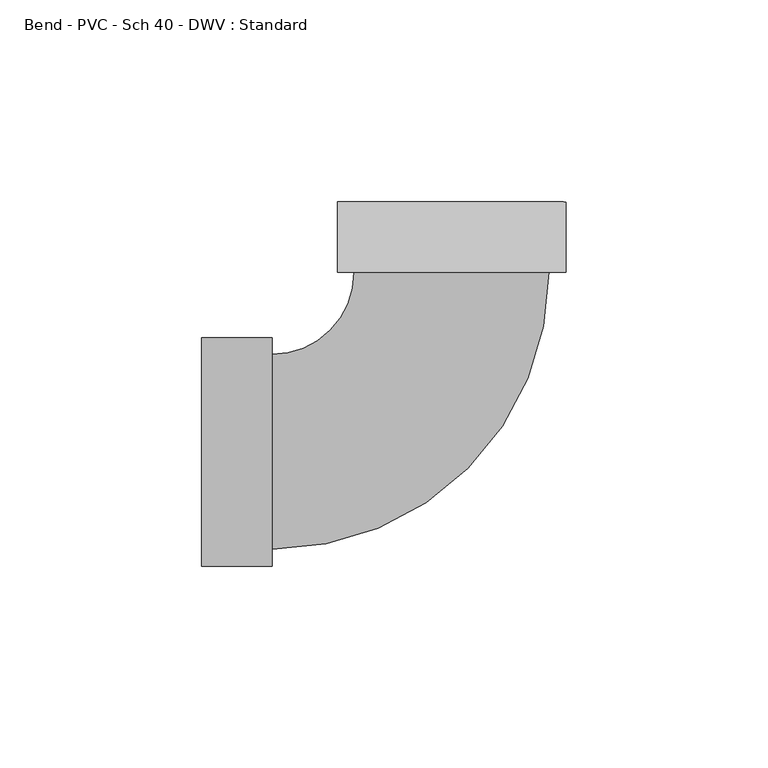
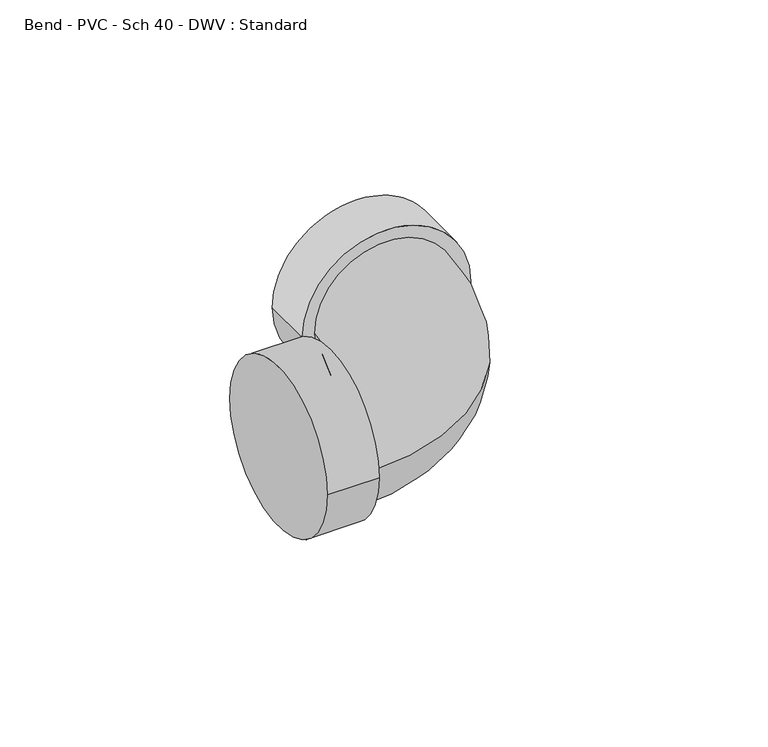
"""IFC4 building model written with IfcOpenShell, lengths in millimetres: pipe fitting geometry, Bend - PVC - Sch 40 - DWV : Standard."""

from ifc_helpers import new_model, si_unit, point, frame, origin, place, context, project, spatial, circle_curve, ellipse_curve, trimmed, source, transform, mapped, element, save
from ifc_brep_helpers import plane_surface, cylinder_surface, revolved_surface, advanced_brep


def bend_pvc_sch_40_dwv_standard_3c02e330(model_context):
    return source(origin(), model_context, "Body", "AdvancedBrep", [
        advanced_brep(
        [(-61.8998, -28.2829, 0.0), (-61.8998, 28.2829, 0.0), (-44.45, -28.2829, 0.0), (-44.45, 28.2829, 0.0), (-44.45, -24.13, 0.0), (-44.45, 24.13, 0.0), (-24.109872, 44.4609207, 0.0), (24.150123, 44.4390702, 0.0), (28.3030226, 44.4371899, 0.0), (-28.2627716, 44.462801, 0.0), (28.3109233, 61.8869881, 0.0), (-28.2548709, 61.9125992, 0.0)],
        [
            (0, 1, circle_curve(frame((-61.8998, 0.0, 0.0), z_axis=(-1.0, 0.0, 0.0), x_axis=(0.0, 1.0, 0.0)), 28.2829)),
            (1, 0, circle_curve(frame((-61.8998, 0.0, 0.0), z_axis=(-1.0, 0.0, 0.0), x_axis=(0.0, 1.0, 0.0)), 28.2829)),
            (2, 3, circle_curve(frame((-44.45, 0.0, 0.0), z_axis=(1.0, 0.0, 0.0), x_axis=(0.0, 1.0, 0.0)), 28.2829)),
            (3, 2, circle_curve(frame((-44.45, 0.0, 0.0), z_axis=(1.0, 0.0, 0.0), x_axis=(0.0, 1.0, 0.0)), 28.2829)),
            (4, 5, circle_curve(frame((-44.45, 0.0, 0.0), z_axis=(-1.0, 0.0, 0.0), x_axis=(0.0, 1.0, 0.0)), 24.13)),
            (5, 4, circle_curve(frame((-44.45, 0.0, 0.0), z_axis=(-1.0, 0.0, 0.0), x_axis=(0.0, 1.0, 0.0)), 24.13)),
            (0, 2),
            (3, 1),
            (6, 5, circle_curve(frame((-44.45, 44.4701301, 0.0), z_axis=(0.0, 0.0, -1.0), x_axis=(0.0, -1.0, 0.0)), 20.3401301)),
            (4, 7, circle_curve(frame((-44.45, 44.4701301, 0.0), z_axis=(0.0, 0.0, 1.0), x_axis=(0.0, -1.0, 0.0)), 68.6001301)),
            (7, 6, circle_curve(frame((0.0201255, 44.4499954, 0.0), z_axis=(-0.00045276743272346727, -0.9999998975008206, 0.0), x_axis=(-0.9999998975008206, 0.00045276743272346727, 0.0)), 24.13)),
            (6, 7, circle_curve(frame((0.0201255, 44.4499954, 0.0), z_axis=(-0.00045276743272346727, -0.9999998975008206, 0.0), x_axis=(-0.9999998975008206, 0.00045276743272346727, 0.0)), 24.13)),
            (8, 9, circle_curve(frame((0.0201255, 44.4499954, 0.0), z_axis=(-0.0004527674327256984, -0.9999998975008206, 0.0), x_axis=(-0.9999998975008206, 0.0004527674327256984, 0.0)), 28.2829)),
            (9, 8, circle_curve(frame((0.0201255, 44.4499954, 0.0), z_axis=(-0.0004527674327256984, -0.9999998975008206, 0.0), x_axis=(-0.9999998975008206, 0.0004527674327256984, 0.0)), 28.2829)),
            (10, 11, circle_curve(frame((0.0280262, 61.8997937, 0.0), z_axis=(0.0004527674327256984, 0.9999998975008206, 0.0), x_axis=(-0.9999998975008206, 0.0004527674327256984, 0.0)), 28.2829)),
            (11, 10, circle_curve(frame((0.0280262, 61.8997937, 0.0), z_axis=(0.0004527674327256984, 0.9999998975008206, 0.0), x_axis=(-0.9999998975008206, 0.0004527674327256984, 0.0)), 28.2829)),
            (8, 10),
            (11, 9),
        ],
        [
            plane_surface(frame((-61.8998, 0.0, 0.0), z_axis=(-1.0, 0.0, 0.0), x_axis=(0.0, 0.0, 1.0))),
            plane_surface(frame((-44.45, 0.0, 0.0), z_axis=(1.0, 0.0, 0.0), x_axis=(0.0, 0.0, 1.0))),
            cylinder_surface(frame((-61.8998, 0.0, 0.0), z_axis=(-1.0, 0.0, 0.0), x_axis=(0.0, 1.0, 0.0)), 28.2829),
            revolved_surface(trimmed(ellipse_curve(frame((-44.45, 0.0, 0.0), z_axis=(-1.0, 0.0, 0.0), x_axis=(0.0, 1.0, 0.0)), 24.13, 24.13), [point((-44.45, -24.13, 0.0))], [point((-44.45, 24.13, 0.0))], True, "CARTESIAN"), (-44.45, 44.4701301, 0.0), (0.0, 0.0, 1.0)),
            revolved_surface(trimmed(ellipse_curve(frame((-44.45, 0.0, 0.0), z_axis=(-1.0, 0.0, 0.0), x_axis=(0.0, 1.0, 0.0)), 24.13, 24.13), [point((-44.45, 24.13, 0.0))], [point((-44.45, -24.13, 0.0))], True, "CARTESIAN"), (-44.45, 44.4701301, 0.0), (0.0, 0.0, 1.0)),
            plane_surface(frame((0.0201255, 44.4499954, 0.0), z_axis=(-0.0004527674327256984, -0.9999998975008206, 0.0), x_axis=(0.0, 0.0, 1.0))),
            plane_surface(frame((0.0280262, 61.8997937, 0.0), z_axis=(0.0004527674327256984, 0.9999998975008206, 0.0), x_axis=(0.0, 0.0, 1.0))),
            cylinder_surface(frame((0.0201255, 44.4499954, 0.0), z_axis=(-0.0004527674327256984, -0.9999998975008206, 0.0), x_axis=(-0.9999998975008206, 0.0004527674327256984, 0.0)), 28.2829),
        ],
        [
            (0, [[1, 2]]),
            (1, [[3, 4], [5, 6]]),
            (2, [[-1, 7, -4, 8]]),
            (2, [[-2, -8, -3, -7]]),
            (3, [[9, -5, 10, 11]]),
            (4, [[-9, 12, -10, -6]]),
            (5, [[13, 14], [-11, -12]]),
            (6, [[15, 16]]),
            (7, [[-13, 17, -16, 18]]),
            (7, [[-14, -18, -15, -17]]),
        ],
    ),
    ])


if __name__ == "__main__":
    model = new_model("IFC4")
    model_context = context("Model", 3, world=origin())
    ifc_project = project(units=[si_unit("LENGTHUNIT", "METRE", prefix="MILLI")], contexts=[model_context])
    site = spatial("IfcSite", under=ifc_project)
    building = spatial("IfcBuilding", under=site)
    placement = place(None, origin())
    bend_pvc_sch_40_dwv_standard_shape = bend_pvc_sch_40_dwv_standard_3c02e330(model_context)
    element("IfcPipeFitting", 1, ObjectType="Bend - PVC - Sch 40 - DWV : Standard", at=placement, inside=building, context=model_context, shape_type="MappedRepresentation", body=[
        mapped(bend_pvc_sch_40_dwv_standard_shape, transform((0.0, 0.0, 0.0), x_axis=(1.0, 0.0, 0.0), y_axis=(0.0, 1.0, 0.0), z_axis=(0.0, 0.0, 1.0))),
    ])
    save(model, "model.ifc")
